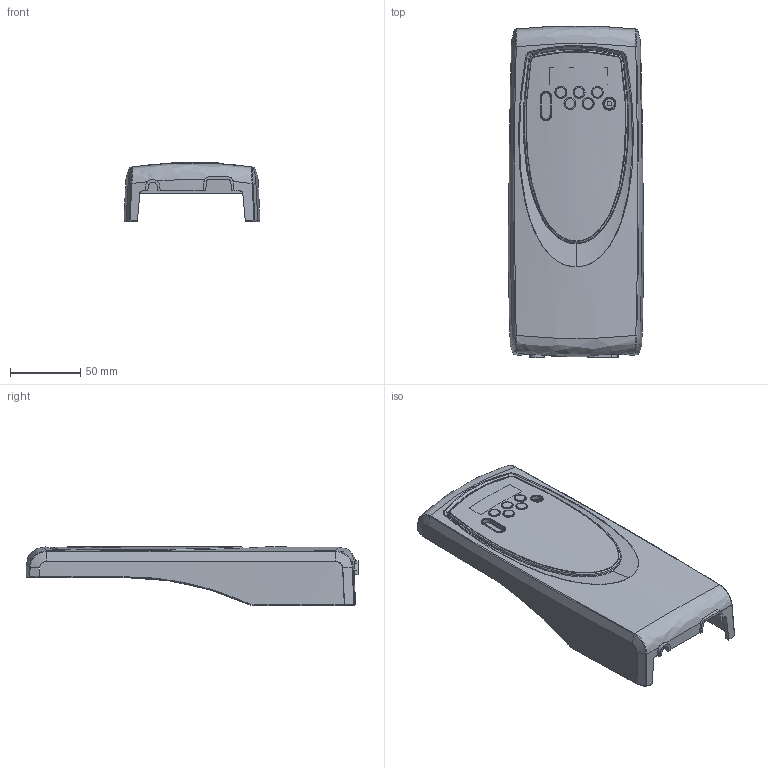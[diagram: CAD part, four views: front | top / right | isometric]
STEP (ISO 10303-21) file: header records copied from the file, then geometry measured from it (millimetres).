
FILE_DESCRIPTION((''),'2;1');
FILE_NAME('PK-SEQ-SK-C-FRONT-COVER','2006-12-19T',('summne01'),(''),'PRO/ENGINEER BY PARAMETRIC TECHNOLOGY CORPORATION, 2006320','PRO/ENGINEER BY PARAMETRIC TECHNOLOGY CORPORATION, 2006320','');
FILE_SCHEMA(('CONFIG_CONTROL_DESIGN'));
Length unit declared in the file: millimetre
Products named in the file (1): PK-SEQ-SK-C-FRONT-COVER
Bounding box: 96.74 x 236.81 x 42.55 mm (x, y, z)
Surface area: 78520.7 mm2 (no closed solid volume)
Topology: 0 solids, 7 shells, 174 faces, 544 edges, 359 vertices
Faces by surface type: bspline 77, plane 38, cylinder 35, cone 24
Entity records: 12742 total; most frequent: CARTESIAN_POINT 8888, ORIENTED_EDGE 889, EDGE_CURVE 544, DIRECTION 453, VERTEX_POINT 359, B_SPLINE_CURVE_WITH_KNOTS 327, EDGE_LOOP 188, VECTOR 175
